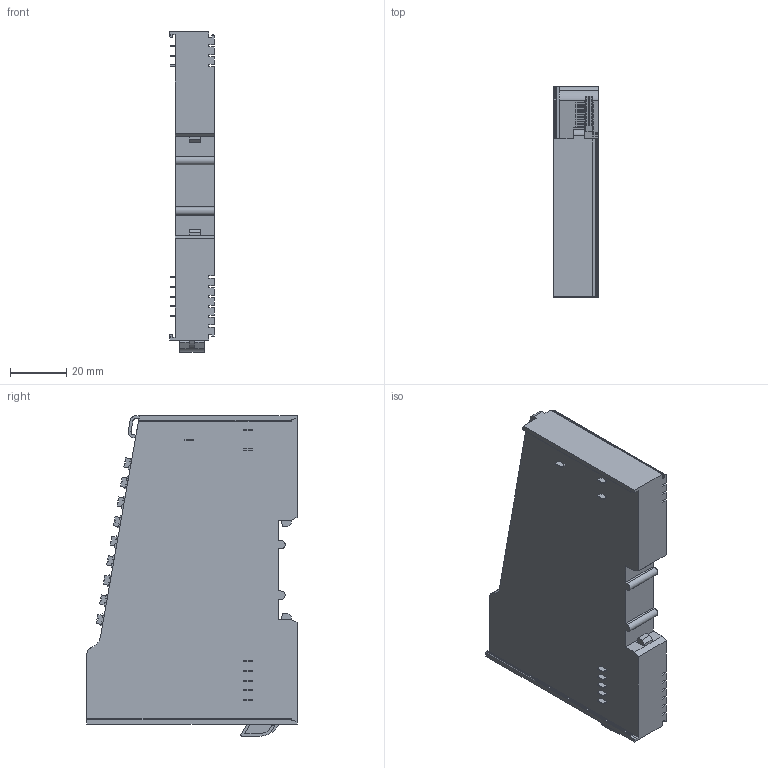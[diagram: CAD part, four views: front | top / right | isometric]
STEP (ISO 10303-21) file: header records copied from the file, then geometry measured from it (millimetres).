
FILE_DESCRIPTION (( 'STEP AP203' ), '1' );
FILE_NAME ('CT3274.STEP', '2024-10-14T01:52:41', ( '' ), ( '' ), 'SwSTEP 2.0', 'SolidWorks 2021', '' );
FILE_SCHEMA (( 'CONFIG_CONTROL_DESIGN' ));
Length unit declared in the file: millimetre
Products named in the file (1): CT3274
Bounding box: 16 x 75 x 114.33 mm (x, y, z)
Volume: 97997 mm3; surface area: 25150.5 mm2
Topology: 1 solids, 1 shells, 723 faces, 1986 edges, 1310 vertices
Faces by surface type: plane 639, bspline 62, cylinder 22
Entity records: 25003 total; most frequent: CARTESIAN_POINT 6942, ORIENTED_EDGE 3972, DIRECTION 3224, EDGE_CURVE 1986, VECTOR 1816, LINE 1816, VERTEX_POINT 1310, EDGE_LOOP 770
